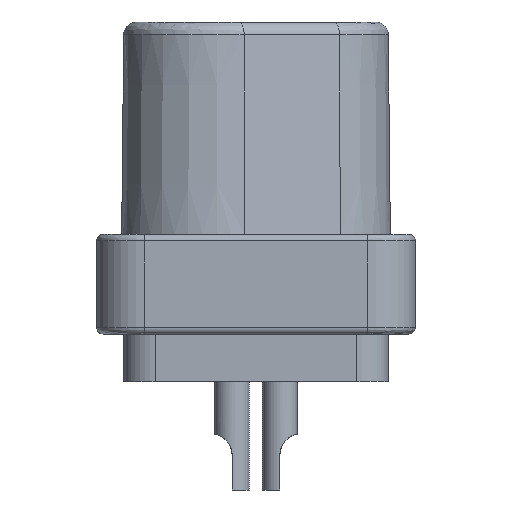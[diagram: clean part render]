
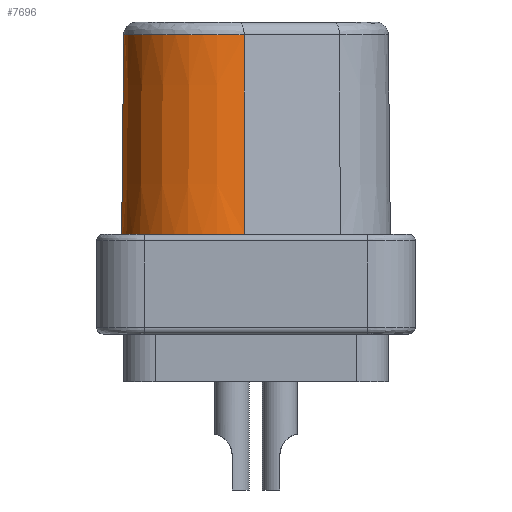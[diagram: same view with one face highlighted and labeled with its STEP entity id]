
A CAD part, left-side view. The second image highlights one B-rep face of the part: STEP entity #7696.
In plain terms, the highlighted conical face has half-angle 0.585 degrees and reference radius 2 mm.
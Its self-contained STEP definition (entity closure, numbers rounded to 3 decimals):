
#238 = EDGE_CURVE ( 'NONE', #19885, #7846, #14680, .T. ) ;
#317 = DIRECTION ( 'NONE',  ( -1., 0., 0. ) ) ;
#909 = VERTEX_POINT ( 'NONE', #18649 ) ;
#2266 = CARTESIAN_POINT ( 'NONE',  ( -4.9, 1.1, -4.9 ) ) ;
#2753 = ORIENTED_EDGE ( 'NONE', *, *, #15208, .T. ) ;
#3532 = AXIS2_PLACEMENT_3D ( 'NONE', #11339, #8092, #21407 ) ;
#3570 = CONICAL_SURFACE ( 'NONE', #14986, 2., 0.01 ) ;
#5086 = CARTESIAN_POINT ( 'NONE',  ( -4.9, 3.053, -0.297 ) ) ;
#5613 = CIRCLE ( 'NONE', #3532, 1.953 ) ;
#5850 = EDGE_CURVE ( 'NONE', #909, #16215, #12678, .T. ) ;
#5884 = EDGE_CURVE ( 'NONE', #19885, #16215, #19492, .T. ) ;
#6781 = CARTESIAN_POINT ( 'NONE',  ( -6.713, 0.255, -4.9 ) ) ;
#7696 = ADVANCED_FACE ( 'NONE', ( #10008 ), #3570, .T. ) ;
#7846 = VERTEX_POINT ( 'NONE', #17268 ) ;
#8092 = DIRECTION ( 'NONE',  ( 0., 0., -1. ) ) ;
#10008 = FACE_OUTER_BOUND ( 'NONE', #13371, .T. ) ;
#10488 = CARTESIAN_POINT ( 'NONE',  ( -4.9, 3.1, -4.9 ) ) ;
#10981 = ORIENTED_EDGE ( 'NONE', *, *, #5884, .F. ) ;
#11339 = CARTESIAN_POINT ( 'NONE',  ( -4.9, 1.1, -0.297 ) ) ;
#11976 = DIRECTION ( 'NONE',  ( -1., 0., 0. ) ) ;
#12678 = B_SPLINE_CURVE_WITH_KNOTS ( 'NONE', 1,
 ( #5086, #10488 ),
 .UNSPECIFIED., .F., .F.,
 ( 2, 2 ),
 ( 0., 1. ),
 .UNSPECIFIED. ) ;
#12861 = CARTESIAN_POINT ( 'NONE',  ( -6.713, 0.255, -4.9 ) ) ;
#13263 = DIRECTION ( 'NONE',  ( 0., 0., -1. ) ) ;
#13371 = EDGE_LOOP ( 'NONE', ( #19974, #2753, #21005, #10981 ) ) ;
#14680 = B_SPLINE_CURVE_WITH_KNOTS ( 'NONE', 1,
 ( #12861, #20978 ),
 .UNSPECIFIED., .F., .F.,
 ( 2, 2 ),
 ( 0., 1. ),
 .UNSPECIFIED. ) ;
#14986 = AXIS2_PLACEMENT_3D ( 'NONE', #16950, #13263, #11976 ) ;
#15208 = EDGE_CURVE ( 'NONE', #7846, #909, #5613, .T. ) ;
#16215 = VERTEX_POINT ( 'NONE', #20674 ) ;
#16739 = AXIS2_PLACEMENT_3D ( 'NONE', #2266, #18625, #317 ) ;
#16950 = CARTESIAN_POINT ( 'NONE',  ( -4.9, 1.1, -4.9 ) ) ;
#17268 = CARTESIAN_POINT ( 'NONE',  ( -6.67, 0.275, -0.297 ) ) ;
#18625 = DIRECTION ( 'NONE',  ( 0., 0., -1. ) ) ;
#18649 = CARTESIAN_POINT ( 'NONE',  ( -4.9, 3.053, -0.297 ) ) ;
#19492 = CIRCLE ( 'NONE', #16739, 2. ) ;
#19885 = VERTEX_POINT ( 'NONE', #6781 ) ;
#19974 = ORIENTED_EDGE ( 'NONE', *, *, #238, .T. ) ;
#20674 = CARTESIAN_POINT ( 'NONE',  ( -4.9, 3.1, -4.9 ) ) ;
#20978 = CARTESIAN_POINT ( 'NONE',  ( -6.67, 0.275, -0.297 ) ) ;
#21005 = ORIENTED_EDGE ( 'NONE', *, *, #5850, .T. ) ;
#21407 = DIRECTION ( 'NONE',  ( 0., -1., 0. ) ) ;
